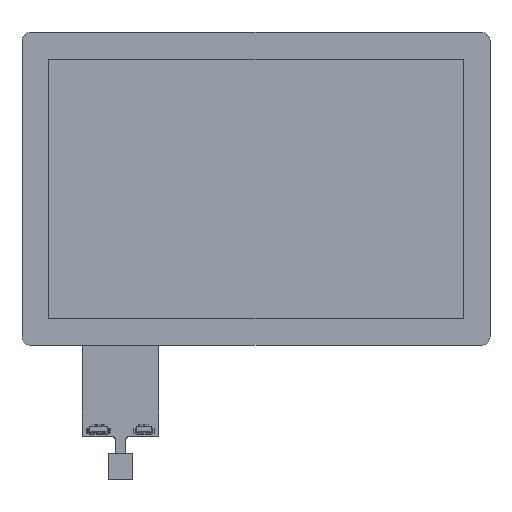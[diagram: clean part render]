
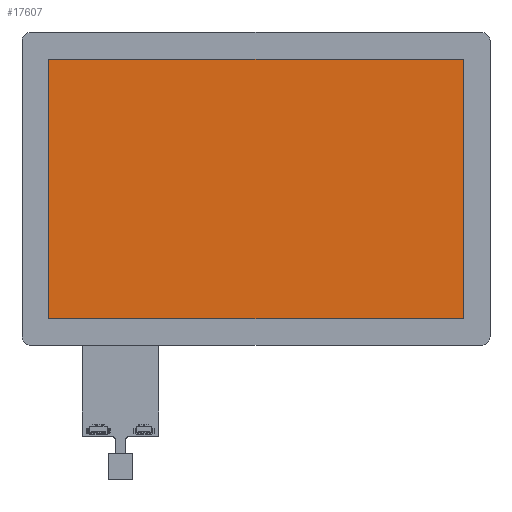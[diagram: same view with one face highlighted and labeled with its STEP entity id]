
A CAD part, top view. The second image highlights one B-rep face of the part: STEP entity #17607.
In plain terms, the highlighted planar face has unit normal (0, 0, 1).
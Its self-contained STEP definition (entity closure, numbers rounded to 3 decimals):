
#1879 = DIRECTION ( 'NONE',  ( 0., -1., 0. ) ) ;
#4025 = ORIENTED_EDGE ( 'NONE', *, *, #57527, .T. ) ;
#6524 = VERTEX_POINT ( 'NONE', #73553 ) ;
#8539 = CARTESIAN_POINT ( 'NONE',  ( 0., 0., 7.38 ) ) ;
#9852 = VECTOR ( 'NONE', #1879, 1000. ) ;
#12333 = CARTESIAN_POINT ( 'NONE',  ( 0., 70.65, 7.38 ) ) ;
#14576 = CARTESIAN_POINT ( 'NONE',  ( 107.59, 0., 7.38 ) ) ;
#14845 = DIRECTION ( 'NONE',  ( 1., 0., 0. ) ) ;
#15879 = VECTOR ( 'NONE', #19145, 1000. ) ;
#17607 = ADVANCED_FACE ( 'NONE', ( #70446 ), #88257, .T. ) ;
#19145 = DIRECTION ( 'NONE',  ( -1., 0., 0. ) ) ;
#22225 = DIRECTION ( 'NONE',  ( 0., 1., 0. ) ) ;
#22620 = CARTESIAN_POINT ( 'NONE',  ( -110.17, 0., 7.38 ) ) ;
#27358 = ORIENTED_EDGE ( 'NONE', *, *, #60914, .T. ) ;
#27968 = DIRECTION ( 'NONE',  ( 0., 0., 1. ) ) ;
#30932 = AXIS2_PLACEMENT_3D ( 'NONE', #8539, #27968, #14845 ) ;
#33638 = VECTOR ( 'NONE', #61230, 1000. ) ;
#34986 = CARTESIAN_POINT ( 'NONE',  ( 0., -65.75, 7.38 ) ) ;
#36675 = ORIENTED_EDGE ( 'NONE', *, *, #82790, .T. ) ;
#37427 = CARTESIAN_POINT ( 'NONE',  ( -110.17, 70.65, 7.38 ) ) ;
#41412 = EDGE_CURVE ( 'NONE', #46487, #6524, #55653, .T. ) ;
#46487 = VERTEX_POINT ( 'NONE', #37427 ) ;
#48445 = LINE ( 'NONE', #14576, #49199 ) ;
#49199 = VECTOR ( 'NONE', #22225, 1000. ) ;
#55410 = ORIENTED_EDGE ( 'NONE', *, *, #41412, .T. ) ;
#55653 = LINE ( 'NONE', #22620, #9852 ) ;
#57527 = EDGE_CURVE ( 'NONE', #65343, #46487, #80605, .T. ) ;
#60914 = EDGE_CURVE ( 'NONE', #80936, #65343, #48445, .T. ) ;
#61230 = DIRECTION ( 'NONE',  ( 1., 0., 0. ) ) ;
#63401 = CARTESIAN_POINT ( 'NONE',  ( 107.59, 70.65, 7.38 ) ) ;
#64045 = CARTESIAN_POINT ( 'NONE',  ( 107.59, -65.75, 7.38 ) ) ;
#65343 = VERTEX_POINT ( 'NONE', #63401 ) ;
#66327 = EDGE_LOOP ( 'NONE', ( #36675, #27358, #4025, #55410 ) ) ;
#70446 = FACE_OUTER_BOUND ( 'NONE', #66327, .T. ) ;
#73553 = CARTESIAN_POINT ( 'NONE',  ( -110.17, -65.75, 7.38 ) ) ;
#75264 = LINE ( 'NONE', #34986, #33638 ) ;
#80605 = LINE ( 'NONE', #12333, #15879 ) ;
#80936 = VERTEX_POINT ( 'NONE', #64045 ) ;
#82790 = EDGE_CURVE ( 'NONE', #6524, #80936, #75264, .T. ) ;
#88257 = PLANE ( 'NONE',  #30932 ) ;
